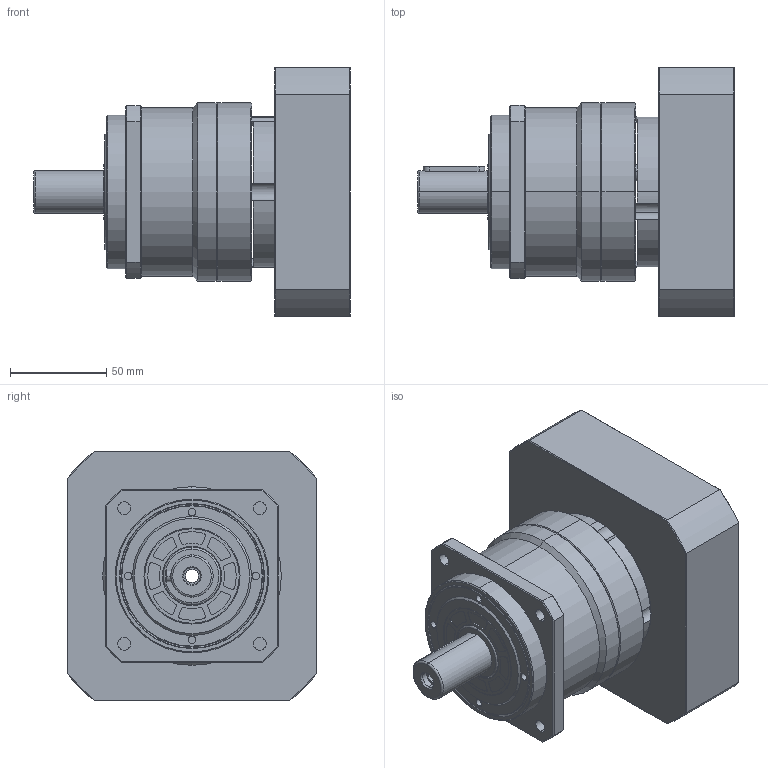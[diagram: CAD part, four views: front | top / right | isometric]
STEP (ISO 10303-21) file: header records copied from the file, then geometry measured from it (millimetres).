
FILE_DESCRIPTION (( 'STEP AP203' ), '1' );
FILE_NAME ('KS90-5-110-22-60-M8-145.STEP', '2020-08-12T02:14:49', ( '微软用户' ), ( '微软中国' ), 'SwSTEP 2.0', 'SolidWorks 2008', '' );
FILE_SCHEMA (( 'CONFIG_CONTROL_DESIGN' ));
Length unit declared in the file: millimetre
Products named in the file (1): KS90-5-110-22-60-M8-145
Bounding box: 165 x 130 x 130 mm (x, y, z)
Surface area: 118133.7 mm2 (no closed solid volume)
Topology: 0 solids, 23 shells, 343 faces, 1101 edges, 769 vertices
Faces by surface type: cylinder 144, plane 121, cone 56, torus 22
Entity records: 12696 total; most frequent: CARTESIAN_POINT 2775, DIRECTION 2206, ORIENTED_EDGE 1761, EDGE_CURVE 1101, AXIS2_PLACEMENT_3D 854, VERTEX_POINT 769, CIRCLE 510, VECTOR 498
